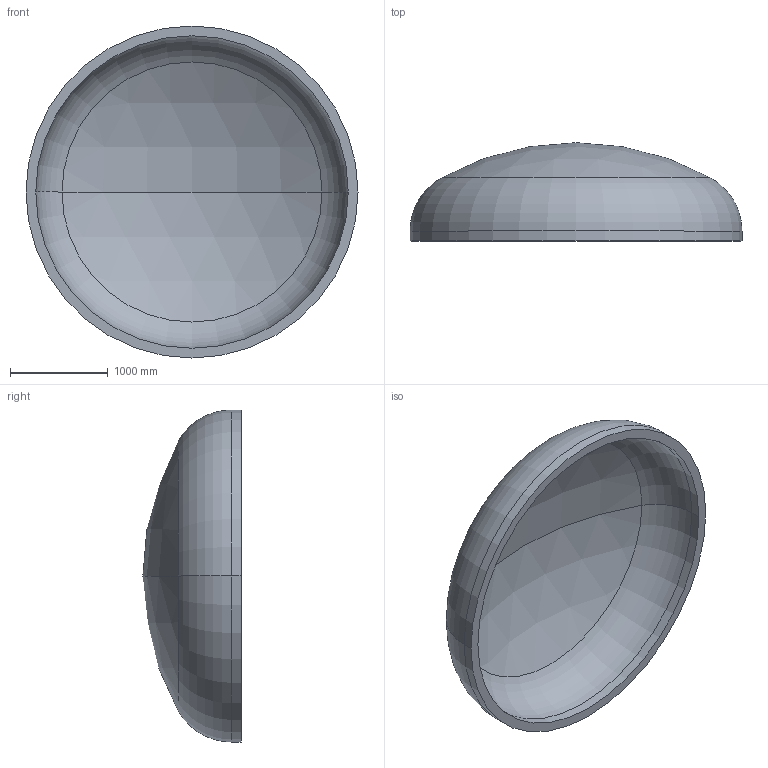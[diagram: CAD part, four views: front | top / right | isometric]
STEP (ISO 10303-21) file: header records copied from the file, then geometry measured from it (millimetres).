
FILE_DESCRIPTION (( 'STEP AP203' ), '1' );
FILE_NAME ('DIN 28013 Korbbogenform_-_Boden DIN 28013 - 3400 x 100 - I - s=100.step', '2016-07-01T19:52:29', ( '' ), ( '' ), 'SwSTEP 2.0', 'SolidWorks 2013', '' );
FILE_SCHEMA (( 'CONFIG_CONTROL_DESIGN' ));
Length unit declared in the file: millimetre
Products named in the file (1): DIN 28013 Korbbogenform_-_Boden DIN 28013 - 3400 x 100 - I - s=100
Bounding box: 3400 x 1006.26 x 3400 mm (x, y, z)
Volume: 1314356621.4 mm3; surface area: 27344793.3 mm2
Topology: 1 solids, 1 shells, 13 faces, 24 edges, 14 vertices
Faces by surface type: torus 4, cylinder 4, sphere 4, plane 1
Entity records: 407 total; most frequent: DIRECTION 72, CARTESIAN_POINT 52, ORIENTED_EDGE 48, AXIS2_PLACEMENT_3D 34, EDGE_CURVE 24, CIRCLE 20, VERTEX_POINT 14, EDGE_LOOP 14
